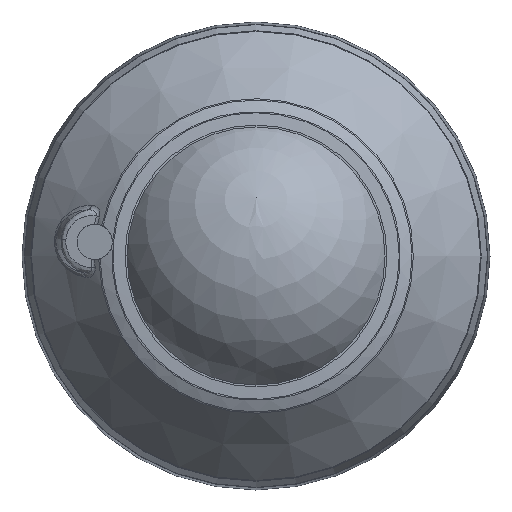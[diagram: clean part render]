
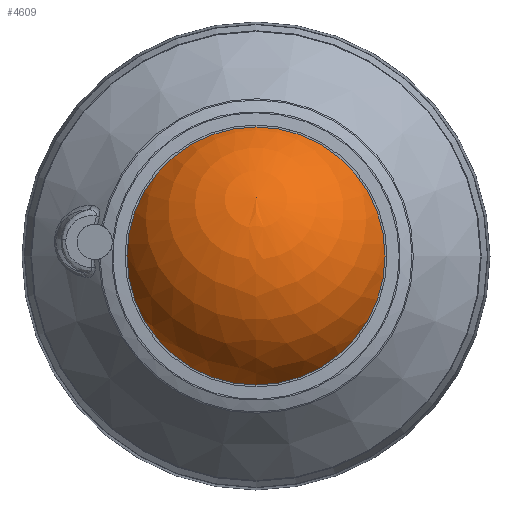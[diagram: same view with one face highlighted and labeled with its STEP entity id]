
A CAD part, front view. The second image highlights one B-rep face of the part: STEP entity #4609.
In plain terms, the highlighted spherical face has radius 11.249 mm.
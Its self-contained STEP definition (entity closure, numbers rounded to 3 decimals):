
#1188 = DIRECTION ( 'NONE',  ( 0., -0.408, -0.913 ) ) ;
#1668 = CARTESIAN_POINT ( 'NONE',  ( 0.003, -13.859, 10.202 ) ) ;
#2983 = FACE_OUTER_BOUND ( 'NONE', #13997, .T. ) ;
#2987 = VERTEX_POINT ( 'NONE', #1668 ) ;
#4609 = ADVANCED_FACE ( 'NONE', ( #2983 ), #8574, .T. ) ;
#6229 = DIRECTION ( 'NONE',  ( 0., 0., 1. ) ) ;
#6409 = CIRCLE ( 'NONE', #19701, 10.197 ) ;
#8574 = SPHERICAL_SURFACE ( 'NONE', #18946, 11.249 ) ;
#9919 = CARTESIAN_POINT ( 'NONE',  ( 0.003, -13.859, 0.005 ) ) ;
#13586 = ORIENTED_EDGE ( 'NONE', *, *, #15074, .T. ) ;
#13997 = EDGE_LOOP ( 'NONE', ( #13586 ) ) ;
#15074 = EDGE_CURVE ( 'NONE', #2987, #2987, #6409, .T. ) ;
#15463 = CARTESIAN_POINT ( 'NONE',  ( 0.003, -9.11, 0.005 ) ) ;
#17494 = DIRECTION ( 'NONE',  ( 0., -0.913, 0.408 ) ) ;
#18946 = AXIS2_PLACEMENT_3D ( 'NONE', #15463, #17494, #1188 ) ;
#19701 = AXIS2_PLACEMENT_3D ( 'NONE', #9919, #20982, #6229 ) ;
#20982 = DIRECTION ( 'NONE',  ( 0., -1., 0. ) ) ;
